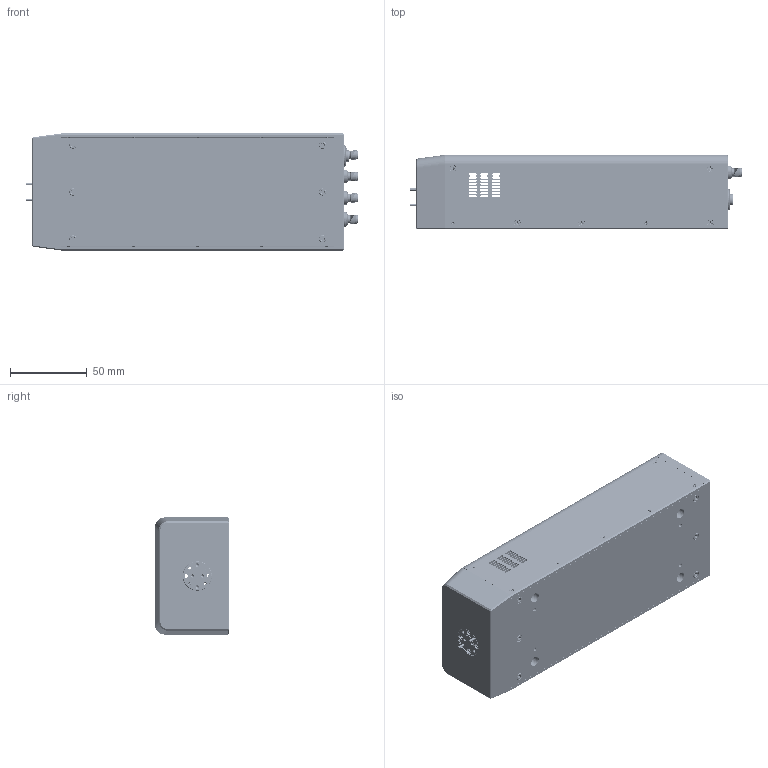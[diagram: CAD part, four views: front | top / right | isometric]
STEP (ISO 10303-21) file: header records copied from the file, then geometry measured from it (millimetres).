
FILE_DESCRIPTION (( 'STEP AP214' ), '1' );
FILE_NAME ('TO-SG-A-2, DF, mountable.STEP', '2025-09-02T20:04:12', ( '' ), ( '' ), 'SwSTEP 2.0', 'SolidWorks 2021', '' );
FILE_SCHEMA (( 'AUTOMOTIVE_DESIGN' ));
Length unit declared in the file: inch
Products named in the file (1): TO-SG-A-2, DF, mountable
Bounding box: 216.16 x 48.26 x 76.2 mm (x, y, z)
Volume: 206449.9 mm3; surface area: 144254.3 mm2
Topology: 92 solids, 92 shells, 5674 faces, 15319 edges, 9827 vertices
Faces by surface type: cylinder 3023, plane 1342, cone 843, bspline 462, torus 4
Entity records: 390767 total; most frequent: CARTESIAN_POINT 190369, ORIENTED_EDGE 30334, DIRECTION 22020, EDGE_CURVE 15167, VERTEX_POINT 9827, AXIS2_PLACEMENT_3D 8106, EDGE_LOOP 6166, LINE 5808
